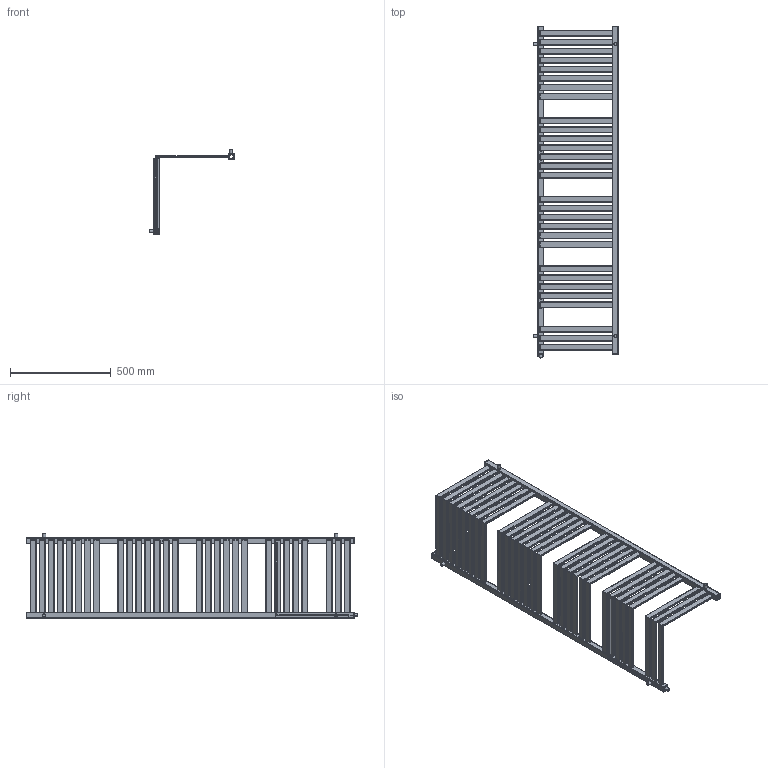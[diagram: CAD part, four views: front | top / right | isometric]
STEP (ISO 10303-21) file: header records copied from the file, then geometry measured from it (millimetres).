
FILE_DESCRIPTION( ( 'Unknown' ), '1' );
FILE_NAME( 'D:/Alplast sp. j/Witryna zespoBu - Projekty/Archiwum/Grzejniki Archiwum/Projekty/DESIGN PROGRAM/CORNER ALFA I BETA/CORNER BETA 7.stp', 'Unknown', ( 'Unknown' ), ( 'Unknown' ), 'PSStep 10.1', 'Unknown', ' ' );
FILE_SCHEMA( ( 'AUTOMOTIVE_DESIGN { 1 0 10303 214 1 1 1 1 }' ) );
Length unit declared in the file: millimetre
Products named in the file (6): Assem1; kana³ po giêciu; kana³y 30x10 czêœæ do giêcia; zaslepka kwadrat otwor; AK7-N; mocowanie
Bounding box: 420 x 1648 x 420 mm (x, y, z)
Volume: 2850964.1 mm3; surface area: 4248691.7 mm2
Topology: 74 solids, 74 shells, 2232 faces, 6283 edges, 4148 vertices
Faces by surface type: plane 1241, cylinder 981, torus 10
Full cylindrical faces by diameter (mm): 14 x5, 16 x5, 18.631 x5, 23 x5
Entity records: 12796 total; most frequent: DIRECTION 1841, CARTESIAN_POINT 1803, ORIENTED_EDGE 1726, EDGE_CURVE 863, AXIS2_PLACEMENT_3D 638, VERTEX_POINT 578, LINE 565, VECTOR 565
